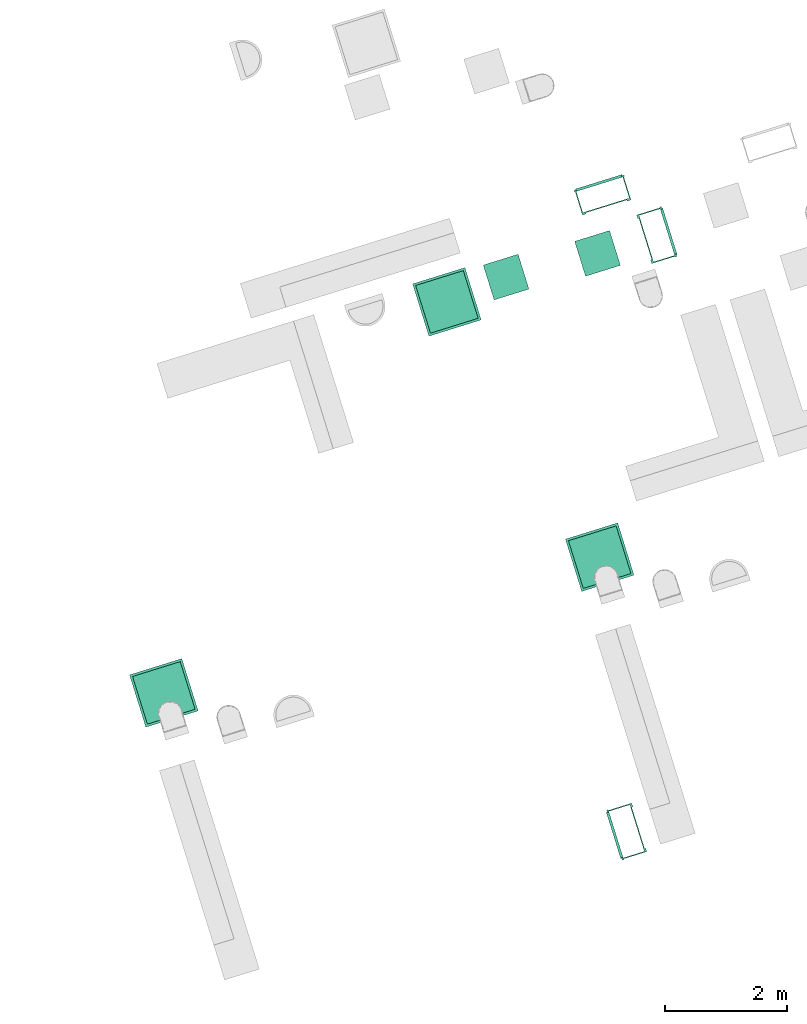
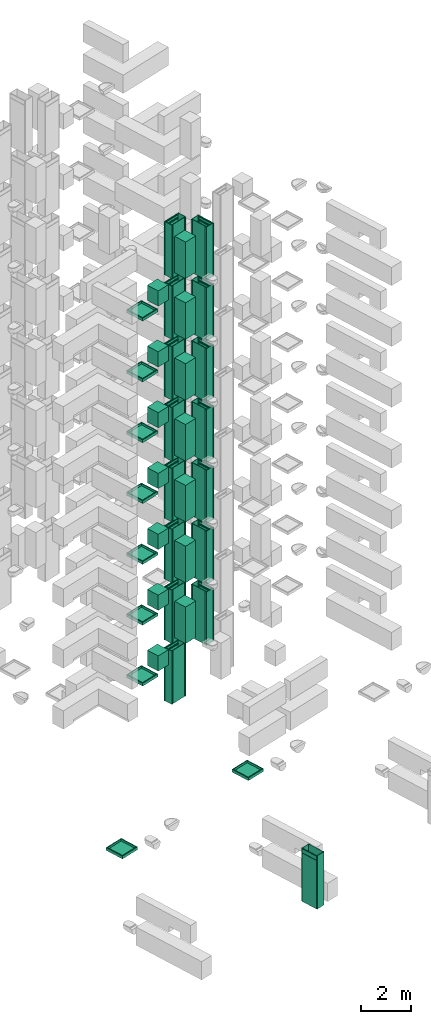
# Not in any storey, part 1 of 20: 16 distribution chamber elements, 9 sanitary terminals, 7 boilers, 7 electric appliances.
"""IFC4 model written with IfcOpenShell, lengths in metres."""

import ifcopenshell
import ifcopenshell.guid

model = None  # the IFC model being written
_history = None  # IfcOwnerHistory: only IFC2X3 demands one
_inside = {}  # id of a spatial element -> (the spatial element, [elements in it])
_under = {}  # id of a project, library or spatial element -> (it, [spatial elements below it])
_declared = {}  # id of a project -> (the project, [libraries it declares])
_typed = {}  # id of a type object -> (the type object, [elements of that type])
_made_of = {}  # id of a material, layer set ... -> (it, [elements and type objects made of it])


def new_model(schema):
    """Start an empty IFC model of exactly this schema.

    Asked for "IFC4X3", IfcOpenShell would pick the latest addendum, in which some entities
    have other attributes; the version numbers below select the first issue.
    IFC2X3 requires an IfcOwnerHistory on every rooted entity: one is made here for all.
    """
    global model, _history
    if schema == "IFC4X3":
        model = ifcopenshell.file(schema_version=(4, 3, 0, 0))
    else:
        model = ifcopenshell.file(schema=schema)
    _inside.clear()
    _under.clear()
    _declared.clear()
    _typed.clear()
    _made_of.clear()
    _history = None
    if model.schema == "IFC2X3":
        org = make("IfcOrganization", Name="unknown")
        user = make(
            "IfcPersonAndOrganization",
            ThePerson=make("IfcPerson", FamilyName="unknown"),
            TheOrganization=org,
        )
        app = make(
            "IfcApplication",
            ApplicationDeveloper=org,
            Version="unknown",
            ApplicationFullName="unknown",
            ApplicationIdentifier="unknown",
        )
        _history = make(
            "IfcOwnerHistory",
            OwningUser=user,
            OwningApplication=app,
            ChangeAction="ADDED",
            CreationDate=0,
        )
    return model


def make(cls, **values):
    """One entity of the class cls with the attributes given. An attribute that is None is left unset."""
    return model.create_entity(
        cls, **{name: value for name, value in values.items() if value is not None}
    )


def entity(cls, *values):
    """Any entity or typed value of the class cls, its attributes in the order of the schema. None: left unset."""
    e = model.create_entity(cls)
    for i, value in enumerate(values):
        if value is not None:
            e[i] = value
    return e


def rooted(cls, **values):
    """An entity with a GlobalId (a new one), such as an element, a storey or a relation."""
    return make(cls, GlobalId=ifcopenshell.guid.new(), OwnerHistory=_history, **values)


def si_unit(unit_type, name, prefix=None):
    """IfcSIUnit, for example si_unit("LENGTHUNIT", "METRE", prefix="MILLI")."""
    return make("IfcSIUnit", UnitType=unit_type, Prefix=prefix, Name=name)


def converted_unit(unit_type, name, factor, base, dimensions=None, offset=None):
    """IfcConversionBasedUnit, such as the inch: factor (a typed value) times the base unit."""
    return make(
        "IfcConversionBasedUnit"
        if offset is None
        else "IfcConversionBasedUnitWithOffset",
        ConversionOffset=offset,
        Dimensions=None
        if dimensions is None
        else entity("IfcDimensionalExponents", *dimensions),
        UnitType=unit_type,
        Name=name,
        ConversionFactor=make(
            "IfcMeasureWithUnit", ValueComponent=factor, UnitComponent=base
        ),
    )


def assignment(units):
    """IfcUnitAssignment: the units of a project."""
    return None if units is None else make("IfcUnitAssignment", Units=units)


def point(xyz):
    """IfcCartesianPoint."""
    return None if xyz is None else make("IfcCartesianPoint", Coordinates=xyz)


def direction(xyz):
    """IfcDirection."""
    return None if xyz is None else make("IfcDirection", DirectionRatios=xyz)


def frame(location, z_axis=None, x_axis=None):
    """IfcAxis2Placement3D, a coordinate frame: its origin and axes. An axis left out is left unset."""
    return make(
        "IfcAxis2Placement3D",
        Location=point(location),
        Axis=direction(z_axis),
        RefDirection=direction(x_axis),
    )


def origin():
    """The frame at (0, 0, 0) with its axes left unset."""
    return frame((0.0, 0.0, 0.0))


def place(relative_to, where):
    """IfcLocalPlacement: puts the frame where relative to a parent placement (None: the world)."""
    return make(
        "IfcLocalPlacement", PlacementRelTo=relative_to, RelativePlacement=where
    )


def context(
    kind, dimensions, precision=None, world=None, true_north=None, identifier=None
):
    """IfcGeometricRepresentationContext, for example the 3D "Model" context."""
    return make(
        "IfcGeometricRepresentationContext",
        ContextIdentifier=identifier,
        ContextType=kind,
        CoordinateSpaceDimension=dimensions,
        Precision=precision,
        WorldCoordinateSystem=world,
        TrueNorth=true_north,
    )


def subcontext(parent, identifier, kind, view, scale=None):
    """IfcGeometricRepresentationSubContext, for example "Body" below "Model"."""
    return make(
        "IfcGeometricRepresentationSubContext",
        ContextIdentifier=identifier,
        ContextType=kind,
        ParentContext=parent,
        TargetScale=scale,
        TargetView=view,
    )


def project(units=None, contexts=None):
    """IfcProject with its units and contexts."""
    return rooted(
        "IfcProject",
        Name="project",
        RepresentationContexts=contexts,
        UnitsInContext=assignment(units),
    )


def point_list(points):
    """IfcCartesianPointList2D or 3D."""
    cls = (
        "IfcCartesianPointList2D" if len(points[0]) == 2 else "IfcCartesianPointList3D"
    )
    return make(cls, CoordList=points)


def indexed_curve(points, segments=None, self_intersect=None):
    """IfcIndexedPolyCurve: lines and arcs through numbered points (the first is 1)."""
    return make(
        "IfcIndexedPolyCurve",
        Points=point_list(points),
        Segments=segments,
        SelfIntersect=self_intersect,
    )


def outline(outer, holes=None, kind="AREA"):
    """IfcArbitraryClosedProfileDef: a profile drawn as a closed curve; with holes, ...WithVoids."""
    if holes is None:
        return make("IfcArbitraryClosedProfileDef", ProfileType=kind, OuterCurve=outer)
    return make(
        "IfcArbitraryProfileDefWithVoids",
        ProfileType=kind,
        OuterCurve=outer,
        InnerCurves=holes,
    )


def extrude(swept, where, along, depth):
    """IfcExtrudedAreaSolid: the profile swept, set in the frame where, extruded along a direction by depth."""
    return make(
        "IfcExtrudedAreaSolid",
        SweptArea=swept,
        Position=where,
        ExtrudedDirection=direction(along),
        Depth=depth,
    )


def polygons(points, faces, closed=None, point_numbers=None):
    """IfcPolygonalFaceSet: a face is its outer loop, then its inner loops; points numbered from 1."""
    made = []
    for loops in faces:
        if len(loops) == 1:
            made.append(make("IfcIndexedPolygonalFace", CoordIndex=loops[0]))
        else:
            made.append(
                make(
                    "IfcIndexedPolygonalFaceWithVoids",
                    CoordIndex=loops[0],
                    InnerCoordIndices=loops[1:],
                )
            )
    return make(
        "IfcPolygonalFaceSet",
        Coordinates=point_list(points),
        Closed=closed,
        Faces=made,
        PnIndex=point_numbers,
    )


def shape(context_of_items, identifier, shape_type, items):
    """IfcShapeRepresentation: the items that make up one representation, for example the "Body"."""
    return make(
        "IfcShapeRepresentation",
        ContextOfItems=context_of_items,
        RepresentationIdentifier=identifier,
        RepresentationType=shape_type,
        Items=items,
    )


def source(mapping_origin, context_of_items, identifier, shape_type, items):
    """IfcRepresentationMap: a shape defined once, which mapped items show again and again."""
    return make(
        "IfcRepresentationMap",
        MappingOrigin=mapping_origin,
        MappedRepresentation=shape(context_of_items, identifier, shape_type, items),
    )


def transform(
    local_origin,
    x_axis=None,
    y_axis=None,
    z_axis=None,
    scale=None,
    scale2=None,
    scale3=None,
    uniform=True,
):
    """IfcCartesianTransformationOperator3D, or its non-uniform kind. x_axis, y_axis, z_axis: its Axis1, 2, 3."""
    if uniform:
        return make(
            "IfcCartesianTransformationOperator3D",
            Axis1=direction(x_axis),
            Axis2=direction(y_axis),
            LocalOrigin=point(local_origin),
            Scale=scale,
            Axis3=direction(z_axis),
        )
    return make(
        "IfcCartesianTransformationOperator3DnonUniform",
        Axis1=direction(x_axis),
        Axis2=direction(y_axis),
        LocalOrigin=point(local_origin),
        Scale=scale,
        Axis3=direction(z_axis),
        Scale2=scale2,
        Scale3=scale3,
    )


def mapped(mapping_source, mapping_target):
    """IfcMappedItem: shows the shape of a source again, moved by a transform."""
    return make(
        "IfcMappedItem", MappingSource=mapping_source, MappingTarget=mapping_target
    )


def material(Name=None, Category=None):
    """IfcMaterial."""
    return make("IfcMaterial", Name=Name, Category=Category)


def made_of(thing, what):
    """Note that an element or type object is made of a material, layer set ...; save() writes the relation."""
    if what is not None:
        _made_of.setdefault(what.id(), (what, []))[1].append(thing)
    return thing


def type_object(cls, material=None, **own):
    """A type object (cls), such as IfcWallType, which elements share."""
    return made_of(rooted(cls, **own), material)


def type_shapes(of_type, sources):
    """Give a type object the sources (RepresentationMaps) that its elements show as mapped items."""
    of_type.RepresentationMaps = sources


def element(
    cls,
    number,
    at=None,
    inside=None,
    cuts=None,
    type_object=None,
    material=None,
    context=None,
    identifier="Body",
    shape_type=None,
    held_by="IfcProductDefinitionShape",
    body=None,
    shapes=None,
    **own,
):
    """One element of the class cls, such as IfcWall. Its Tag is "e" and its number.

    at: its placement. inside: the storey or other place that contains it. cuts: it is an
    opening in that element (IfcRelVoidsElement). A single representation is given by context,
    identifier, shape_type and body (its items); several are given by shapes. held_by: the class
    of the entity that holds the representations. save() writes the other relations.
    """
    e = rooted(cls, Tag="e%d" % number, ObjectPlacement=at, **own)
    if body is not None:
        shapes = [shape(context, identifier, shape_type, body)]
    if shapes is not None:
        e.Representation = make(held_by, Representations=shapes)
    if inside is not None:
        _inside.setdefault(inside.id(), (inside, []))[1].append(e)
    if cuts is not None:
        rooted(
            "IfcRelVoidsElement", RelatingBuildingElement=cuts, RelatedOpeningElement=e
        )
    if type_object is not None:
        _typed.setdefault(type_object.id(), (type_object, []))[1].append(e)
    return made_of(e, material)


def aggregate(whole, parts):
    """IfcRelAggregates: a whole, such as a stair, and the parts it consists of."""
    return rooted("IfcRelAggregates", RelatingObject=whole, RelatedObjects=parts)


def save(model, path):
    """Write the relations noted so far, then the file.

    IfcRelAggregates (storeys below a building ...), IfcRelContainedInSpatialStructure (elements
    in a storey), IfcRelDefinesByType, IfcRelAssociatesMaterial and IfcRelDeclares: one each for
    every whole, place, type object, material and project.
    """
    for whole, parts in _under.values():
        aggregate(whole, parts)
    for where, things in _inside.values():
        rooted(
            "IfcRelContainedInSpatialStructure",
            RelatedElements=things,
            RelatingStructure=where,
        )
    for kind, things in _typed.values():
        rooted("IfcRelDefinesByType", RelatedObjects=things, RelatingType=kind)
    for what, things in _made_of.values():
        rooted("IfcRelAssociatesMaterial", RelatedObjects=things, RelatingMaterial=what)
    for by, libraries in _declared.values():
        rooted("IfcRelDeclares", RelatingContext=by, RelatedDefinitions=libraries)
    model.write(path)


model = new_model("IFC4")

# Units and contexts
model_context = context("Model", 3, precision=1e-05, world=origin(), true_north=direction((6.12323399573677e-17, 1.0)))
body_context = subcontext(model_context, "Body", "Model", "MODEL_VIEW")
ifc_project = project(units=[si_unit("LENGTHUNIT", "METRE"), si_unit("AREAUNIT", "SQUARE_METRE"), si_unit("VOLUMEUNIT", "CUBIC_METRE"), converted_unit("PLANEANGLEUNIT", "DEGREE", entity("IfcPlaneAngleMeasure", 0.0174532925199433), si_unit("PLANEANGLEUNIT", "RADIAN"), dimensions=[0, 0, 0, 0, 0, 0, 0])], contexts=[model_context])

# Distribution chamber elements
ifc_material = material(Name="<Unnamed>")
distribution_chamber_element_type = type_object("IfcDistributionChamberElementType", Name="NLRS_61_GM_UN_Jonka meterkast_gen:Jonka_kast", PredefinedType="METERCHAMBER", material=ifc_material)
shared_shape_1 = source(origin(), body_context, "Body", "SweptSolid", [
    extrude(outline(indexed_curve([(-0.00925000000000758, -0.0230000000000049), (0.0177500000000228, -0.0230000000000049), (0.0177500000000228, 0.0230000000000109), (-0.00925000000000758, 0.0230000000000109), (-0.00925000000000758, 0.00899999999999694), (0.000749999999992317, 0.00899999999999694), (0.000749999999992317, -0.00900000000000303), (-0.00925000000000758, -0.00900000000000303), (-0.00925000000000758, -0.0230000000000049)], self_intersect=False)), frame((-0.408999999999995, -0.409249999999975, 0.0), z_axis=(0.0, 0.0, 1.0), x_axis=(0.0, -1.0, 0.0)), (0.0, 0.0, 1.0), 2.63),
    extrude(outline(indexed_curve([(-0.0092500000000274, -0.0230000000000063), (0.0177500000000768, -0.0230000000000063), (0.0177500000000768, 0.0229999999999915), (-0.00925000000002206, 0.0229999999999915), (-0.00925000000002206, 0.00900000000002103), (0.000749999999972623, 0.00900000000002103), (0.000749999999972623, -0.00900000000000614), (-0.0092500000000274, -0.00900000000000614), (-0.0092500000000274, -0.0230000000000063)], self_intersect=False)), frame((0.409000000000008, -0.409249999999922, 0.0), z_axis=(0.0, 0.0, 1.0), x_axis=(0.0, -1.0, 0.0)), (0.0, 0.0, 1.0), 2.63),
    extrude(outline(indexed_curve([(-0.204999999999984, -0.00899999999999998), (0.204999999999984, -0.00899999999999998), (0.204999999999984, 0.00899999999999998), (-0.204999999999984, 0.00899999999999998), (-0.204999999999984, -0.00899999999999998)], self_intersect=False)), frame((-0.408999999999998, -0.204999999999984, 0.0), z_axis=(0.0, 0.0, 1.0), x_axis=(0.0, -1.0, 0.0)), (0.0, 0.0, 1.0), 2.63),
    extrude(outline(indexed_curve([(-0.204999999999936, -0.00900000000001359), (0.204999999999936, -0.00900000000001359), (0.204999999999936, 0.00900000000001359), (-0.204999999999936, 0.00900000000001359), (-0.204999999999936, -0.00900000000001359)], self_intersect=False)), frame((0.409000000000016, -0.204999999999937, 0.0), z_axis=(0.0, 0.0, 1.0), x_axis=(0.0, -1.0, 0.0)), (0.0, 0.0, 1.0), 2.63),
    extrude(outline(indexed_curve([(-0.399999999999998, -0.00799999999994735), (0.399999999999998, -0.00799999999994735), (0.399999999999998, 0.00799999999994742), (-0.399999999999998, 0.00799999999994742), (-0.399999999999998, -0.00799999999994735)], self_intersect=False)), frame((0.0, -0.434999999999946, 0.00999999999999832), z_axis=(0.0, 0.0, 1.0), x_axis=(-1.0, 0.0, 0.0)), (0.0, 0.0, 1.0), 2.39),
    extrude(outline(indexed_curve([(-0.400000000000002, -0.00899999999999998), (0.400000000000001, -0.00899999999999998), (0.400000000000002, 0.00899999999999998), (-0.400000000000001, 0.00899999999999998), (-0.400000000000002, -0.00899999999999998)], self_intersect=False)), frame((0.0, -0.0280000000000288, 0.0), z_axis=(0.0, 0.0, 1.0), x_axis=(-1.0, 0.0, 0.0)), (0.0, 0.0, 1.0), 2.63),
    extrude(outline(indexed_curve([(-0.023, -0.0095), (0.023, -0.0095), (0.023, 0.0095), (-0.023, 0.0095), (-0.023, -0.0095)], self_intersect=False)), frame((-0.376999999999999, -0.0095, 0.0), z_axis=(0.0, 0.0, 1.0), x_axis=(-1.0, 0.0, 0.0)), (0.0, 0.0, 1.0), 2.63),
    extrude(outline(indexed_curve([(-0.022999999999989, -0.0095), (0.022999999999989, -0.0095), (0.022999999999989, 0.0095), (-0.022999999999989, 0.0095), (-0.022999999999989, -0.0095)], self_intersect=False)), frame((0.377000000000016, -0.00950000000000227, 0.0), z_axis=(0.0, 0.0, 1.0), x_axis=(-1.0, 0.0, 0.0)), (0.0, 0.0, 1.0), 2.63),
    extrude(outline(indexed_curve([(-0.399999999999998, -0.00799999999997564), (0.399999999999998, -0.00799999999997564), (0.399999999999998, 0.00799999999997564), (-0.399999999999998, 0.00799999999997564), (-0.399999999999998, -0.00799999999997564)], self_intersect=False)), frame((0.0, -0.434999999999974, 2.41800000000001), z_axis=(0.0, 0.0, 1.0), x_axis=(-1.0, 0.0, 0.0)), (0.0, 0.0, 1.0), 0.197000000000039),
    extrude(outline(indexed_curve([(-0.0230000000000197, -0.0177500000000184), (0.0230000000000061, -0.0177500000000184), (0.0230000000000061, 0.00925000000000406), (0.00900000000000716, 0.00925000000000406), (0.00900000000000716, -0.00074999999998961), (-0.00899999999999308, -0.00074999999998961), (-0.00899999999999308, 0.00925000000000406), (-0.0230000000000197, 0.00925000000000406), (-0.0230000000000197, -0.0177500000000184)], self_intersect=False)), frame((-0.386, -0.409249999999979, 2.59200000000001), z_axis=(1.0, 0.0, 0.0), x_axis=(0.0, 0.0, -1.0)), (0.0, 0.0, 1.0), 0.772),
    extrude(outline(indexed_curve([(-0.0229999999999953, -0.0177500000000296), (0.0229999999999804, -0.0177500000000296), (0.0229999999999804, 0.00925000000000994), (0.00900000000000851, 0.00925000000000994), (0.00900000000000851, -0.000749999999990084), (-0.00899999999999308, -0.000749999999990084), (-0.00899999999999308, 0.00925000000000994), (-0.0229999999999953, 0.00925000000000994), (-0.0229999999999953, -0.0177500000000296)], self_intersect=False)), frame((-0.386, -0.40924999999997, 2.40900000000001), z_axis=(1.0, 0.0, 0.0), x_axis=(0.0, 0.0, -1.0)), (0.0, 0.0, 1.0), 0.772),
    extrude(outline(indexed_curve([(-0.0230000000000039, -0.0177500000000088), (0.0230000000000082, -0.0177500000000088), (0.0230000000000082, 0.00925000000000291), (0.00899999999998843, 0.00925000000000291), (0.00899999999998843, -0.000749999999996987), (-0.00899999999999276, -0.000749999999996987), (-0.00899999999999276, 0.00925000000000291), (-0.0230000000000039, 0.00925000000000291), (-0.0230000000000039, -0.0177500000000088)], self_intersect=False)), frame((-0.386, -0.409249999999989, 0.0229999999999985), z_axis=(1.0, 0.0, 0.0), x_axis=(0.0, 0.0, -1.0)), (0.0, 0.0, 1.0), 0.772),
])
type_shapes(distribution_chamber_element_type, [shared_shape_1])
placement_1 = place(None, frame((13.1347999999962, 11.9886000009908, 0.0), z_axis=(0.0, 0.0, 1.0), x_axis=(0.954770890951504, 0.297342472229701, 0.0)))
placement_2 = place(placement_1, origin())
placement_3 = place(placement_2, frame((0.0, 0.0, 6.9)))
placement_4 = place(placement_3, origin())
distribution_chamber_element_1_placement = place(placement_4, frame((15.3250000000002, 11.3429999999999, 0.0), z_axis=(0.0, 0.0, 1.0), x_axis=(0.0, 1.0, 0.0)))
element("IfcDistributionChamberElement", 1, at=distribution_chamber_element_1_placement, type_object=distribution_chamber_element_type, material=ifc_material, Name="NLRS_61_GM_UN_Jonka meterkast_gen:Jonka_kast", ObjectType="NLRS_61_GM_UN_Jonka meterkast_gen:Jonka_kast", PredefinedType="METERCHAMBER", context=body_context, shape_type="MappedRepresentation", body=[
    mapped(shared_shape_1, transform((0.0, 0.0, 0.0), scale=1.0)),
])
placement_5 = place(placement_2, frame((0.0, 0.0, 9.9)))
placement_6 = place(placement_5, origin())
distribution_chamber_element_2_placement = place(placement_6, frame((15.3250000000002, 11.3429999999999, 0.0), z_axis=(0.0, 0.0, 1.0), x_axis=(0.0, 1.0, 0.0)))
element("IfcDistributionChamberElement", 2, at=distribution_chamber_element_2_placement, type_object=distribution_chamber_element_type, material=ifc_material, Name="NLRS_61_GM_UN_Jonka meterkast_gen:Jonka_kast", ObjectType="NLRS_61_GM_UN_Jonka meterkast_gen:Jonka_kast", PredefinedType="METERCHAMBER", context=body_context, shape_type="MappedRepresentation", body=[
    mapped(shared_shape_1, transform((0.0, 0.0, 0.0), scale=1.0)),
])
placement_7 = place(placement_2, frame((0.0, 0.0, 12.9)))
placement_8 = place(placement_7, origin())
distribution_chamber_element_3_placement = place(placement_8, frame((15.3250000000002, 11.3429999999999, 0.0), z_axis=(0.0, 0.0, 1.0), x_axis=(0.0, 1.0, 0.0)))
element("IfcDistributionChamberElement", 3, at=distribution_chamber_element_3_placement, type_object=distribution_chamber_element_type, material=ifc_material, Name="NLRS_61_GM_UN_Jonka meterkast_gen:Jonka_kast", ObjectType="NLRS_61_GM_UN_Jonka meterkast_gen:Jonka_kast", PredefinedType="METERCHAMBER", context=body_context, shape_type="MappedRepresentation", body=[
    mapped(shared_shape_1, transform((0.0, 0.0, 0.0), scale=1.0)),
])
placement_9 = place(placement_2, frame((0.0, 0.0, 15.9)))
placement_10 = place(placement_9, origin())
distribution_chamber_element_4_placement = place(placement_10, frame((15.3250000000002, 11.3429999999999, 0.0), z_axis=(0.0, 0.0, 1.0), x_axis=(0.0, 1.0, 0.0)))
element("IfcDistributionChamberElement", 4, at=distribution_chamber_element_4_placement, type_object=distribution_chamber_element_type, material=ifc_material, Name="NLRS_61_GM_UN_Jonka meterkast_gen:Jonka_kast", ObjectType="NLRS_61_GM_UN_Jonka meterkast_gen:Jonka_kast", PredefinedType="METERCHAMBER", context=body_context, shape_type="MappedRepresentation", body=[
    mapped(shared_shape_1, transform((0.0, 0.0, 0.0), scale=1.0)),
])
placement_11 = place(placement_2, frame((0.0, 0.0, 18.9)))
placement_12 = place(placement_11, origin())
distribution_chamber_element_5_placement = place(placement_12, frame((15.3250000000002, 11.3429999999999, 0.0), z_axis=(0.0, 0.0, 1.0), x_axis=(0.0, 1.0, 0.0)))
element("IfcDistributionChamberElement", 5, at=distribution_chamber_element_5_placement, type_object=distribution_chamber_element_type, material=ifc_material, Name="NLRS_61_GM_UN_Jonka meterkast_gen:Jonka_kast", ObjectType="NLRS_61_GM_UN_Jonka meterkast_gen:Jonka_kast", PredefinedType="METERCHAMBER", context=body_context, shape_type="MappedRepresentation", body=[
    mapped(shared_shape_1, transform((0.0, 0.0, 0.0), scale=1.0)),
])
placement_13 = place(placement_2, frame((0.0, 0.0, 21.9)))
placement_14 = place(placement_13, origin())
distribution_chamber_element_6_placement = place(placement_14, frame((15.3250000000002, 11.3429999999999, 0.0), z_axis=(0.0, 0.0, 1.0), x_axis=(0.0, 1.0, 0.0)))
element("IfcDistributionChamberElement", 6, at=distribution_chamber_element_6_placement, type_object=distribution_chamber_element_type, material=ifc_material, Name="NLRS_61_GM_UN_Jonka meterkast_gen:Jonka_kast", ObjectType="NLRS_61_GM_UN_Jonka meterkast_gen:Jonka_kast", PredefinedType="METERCHAMBER", context=body_context, shape_type="MappedRepresentation", body=[
    mapped(shared_shape_1, transform((0.0, 0.0, 0.0), scale=1.0)),
])
placement_15 = place(placement_2, frame((0.0, 0.0, 24.9)))
placement_16 = place(placement_15, origin())
distribution_chamber_element_7_placement = place(placement_16, frame((15.3250000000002, 11.3429999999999, 0.0), z_axis=(0.0, 0.0, 1.0), x_axis=(0.0, 1.0, 0.0)))
element("IfcDistributionChamberElement", 7, at=distribution_chamber_element_7_placement, type_object=distribution_chamber_element_type, material=ifc_material, Name="NLRS_61_GM_UN_Jonka meterkast_gen:Jonka_kast", ObjectType="NLRS_61_GM_UN_Jonka meterkast_gen:Jonka_kast", PredefinedType="METERCHAMBER", context=body_context, shape_type="MappedRepresentation", body=[
    mapped(shared_shape_1, transform((0.0, 0.0, 0.0), scale=1.0)),
])

# Boilers
boiler_type = type_object("IfcBoilerType", Name="NLRS_51_ME_WB_warmtepomp_gen:generiek", PredefinedType="NOTDEFINED", material=ifc_material)
shared_shape_2 = source(origin(), body_context, "Body", "SweptSolid", [
    extrude(outline(indexed_curve([(-0.299999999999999, -0.300000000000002), (0.299999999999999, -0.300000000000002), (0.299999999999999, 0.300000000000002), (-0.299999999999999, 0.300000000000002), (-0.299999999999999, -0.300000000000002)], self_intersect=False)), frame((0.124999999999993, 0.350000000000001, 0.6), z_axis=(0.0, 0.0, 1.0), x_axis=(-1.0, 0.0, 0.0)), (0.0, 0.0, 1.0), 1.8),
])
type_shapes(boiler_type, [shared_shape_2])
placement_17 = place(placement_3, origin())
boiler_1_placement = place(placement_17, frame((14.8750000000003, 11.2249999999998, 0.0), z_axis=(0.0, 0.0, 1.0), x_axis=(0.0, 1.0, 0.0)))
element("IfcBoiler", 8, at=boiler_1_placement, type_object=boiler_type, material=ifc_material, Name="NLRS_51_ME_WB_warmtepomp_gen:generiek", ObjectType="NLRS_51_ME_WB_warmtepomp_gen:generiek", PredefinedType="NOTDEFINED", context=body_context, shape_type="MappedRepresentation", body=[
    mapped(shared_shape_2, transform((0.0, 0.0, 0.0), scale=1.0)),
])
placement_18 = place(placement_5, origin())
boiler_2_placement = place(placement_18, frame((14.8750000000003, 11.2249999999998, 0.0), z_axis=(0.0, 0.0, 1.0), x_axis=(0.0, 1.0, 0.0)))
element("IfcBoiler", 9, at=boiler_2_placement, type_object=boiler_type, material=ifc_material, Name="NLRS_51_ME_WB_warmtepomp_gen:generiek", ObjectType="NLRS_51_ME_WB_warmtepomp_gen:generiek", PredefinedType="NOTDEFINED", context=body_context, shape_type="MappedRepresentation", body=[
    mapped(shared_shape_2, transform((0.0, 0.0, 0.0), scale=1.0)),
])
placement_19 = place(placement_7, origin())
boiler_3_placement = place(placement_19, frame((14.8750000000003, 11.2249999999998, 0.0), z_axis=(0.0, 0.0, 1.0), x_axis=(0.0, 1.0, 0.0)))
element("IfcBoiler", 10, at=boiler_3_placement, type_object=boiler_type, material=ifc_material, Name="NLRS_51_ME_WB_warmtepomp_gen:generiek", ObjectType="NLRS_51_ME_WB_warmtepomp_gen:generiek", PredefinedType="NOTDEFINED", context=body_context, shape_type="MappedRepresentation", body=[
    mapped(shared_shape_2, transform((0.0, 0.0, 0.0), scale=1.0)),
])
placement_20 = place(placement_9, origin())
boiler_4_placement = place(placement_20, frame((14.8750000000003, 11.2249999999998, 0.0), z_axis=(0.0, 0.0, 1.0), x_axis=(0.0, 1.0, 0.0)))
element("IfcBoiler", 11, at=boiler_4_placement, type_object=boiler_type, material=ifc_material, Name="NLRS_51_ME_WB_warmtepomp_gen:generiek", ObjectType="NLRS_51_ME_WB_warmtepomp_gen:generiek", PredefinedType="NOTDEFINED", context=body_context, shape_type="MappedRepresentation", body=[
    mapped(shared_shape_2, transform((0.0, 0.0, 0.0), scale=1.0)),
])
placement_21 = place(placement_11, origin())
boiler_5_placement = place(placement_21, frame((14.8750000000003, 11.2249999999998, 0.0), z_axis=(0.0, 0.0, 1.0), x_axis=(0.0, 1.0, 0.0)))
element("IfcBoiler", 12, at=boiler_5_placement, type_object=boiler_type, material=ifc_material, Name="NLRS_51_ME_WB_warmtepomp_gen:generiek", ObjectType="NLRS_51_ME_WB_warmtepomp_gen:generiek", PredefinedType="NOTDEFINED", context=body_context, shape_type="MappedRepresentation", body=[
    mapped(shared_shape_2, transform((0.0, 0.0, 0.0), scale=1.0)),
])
placement_22 = place(placement_13, origin())
boiler_6_placement = place(placement_22, frame((14.8750000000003, 11.2249999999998, 0.0), z_axis=(0.0, 0.0, 1.0), x_axis=(0.0, 1.0, 0.0)))
element("IfcBoiler", 13, at=boiler_6_placement, type_object=boiler_type, material=ifc_material, Name="NLRS_51_ME_WB_warmtepomp_gen:generiek", ObjectType="NLRS_51_ME_WB_warmtepomp_gen:generiek", PredefinedType="NOTDEFINED", context=body_context, shape_type="MappedRepresentation", body=[
    mapped(shared_shape_2, transform((0.0, 0.0, 0.0), scale=1.0)),
])
placement_23 = place(placement_15, origin())
boiler_7_placement = place(placement_23, frame((14.8750000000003, 11.2249999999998, 0.0), z_axis=(0.0, 0.0, 1.0), x_axis=(0.0, 1.0, 0.0)))
element("IfcBoiler", 14, at=boiler_7_placement, type_object=boiler_type, material=ifc_material, Name="NLRS_51_ME_WB_warmtepomp_gen:generiek", ObjectType="NLRS_51_ME_WB_warmtepomp_gen:generiek", PredefinedType="NOTDEFINED", context=body_context, shape_type="MappedRepresentation", body=[
    mapped(shared_shape_2, transform((0.0, 0.0, 0.0), scale=1.0)),
])

# Electric appliances
electric_appliance_type = type_object("IfcElectricApplianceType", Name="NLRS_85_SE_UN_opstelplaats wasmachine_gen:wasdroger", PredefinedType="TUMBLEDRYER", material=ifc_material)
shared_shape_3 = source(origin(), body_context, "Body", "SweptSolid", [
    extrude(outline(indexed_curve([(-0.299999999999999, -0.3), (0.299999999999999, -0.3), (0.299999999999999, 0.3), (-0.299999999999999, 0.3), (-0.299999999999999, -0.3)], self_intersect=False)), frame((0.0, 0.349999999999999, 0.0), z_axis=(0.0, 0.0, 1.0), x_axis=(0.0, 1.0, 0.0)), (0.0, 0.0, 1.0), 0.75026866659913),
])
type_shapes(electric_appliance_type, [shared_shape_3])
electric_appliance_1_placement = place(placement_17, frame((12.9750000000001, 11.7749999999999, 0.0), z_axis=(0.0, 0.0, 1.0), x_axis=(-1.0, 0.0, 0.0)))
element("IfcElectricAppliance", 15, at=electric_appliance_1_placement, type_object=electric_appliance_type, material=ifc_material, Name="NLRS_85_SE_UN_opstelplaats wasmachine_gen:wasdroger", ObjectType="NLRS_85_SE_UN_opstelplaats wasmachine_gen:wasdroger", PredefinedType="TUMBLEDRYER", context=body_context, shape_type="MappedRepresentation", body=[
    mapped(shared_shape_3, transform((0.0, 0.0, 0.0), scale=1.0)),
])
electric_appliance_2_placement = place(placement_18, frame((12.9750000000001, 11.7749999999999, 0.0), z_axis=(0.0, 0.0, 1.0), x_axis=(-1.0, 0.0, 0.0)))
element("IfcElectricAppliance", 16, at=electric_appliance_2_placement, type_object=electric_appliance_type, material=ifc_material, Name="NLRS_85_SE_UN_opstelplaats wasmachine_gen:wasdroger", ObjectType="NLRS_85_SE_UN_opstelplaats wasmachine_gen:wasdroger", PredefinedType="TUMBLEDRYER", context=body_context, shape_type="MappedRepresentation", body=[
    mapped(shared_shape_3, transform((0.0, 0.0, 0.0), scale=1.0)),
])
electric_appliance_3_placement = place(placement_19, frame((12.9750000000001, 11.7749999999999, 0.0), z_axis=(0.0, 0.0, 1.0), x_axis=(-1.0, 0.0, 0.0)))
element("IfcElectricAppliance", 17, at=electric_appliance_3_placement, type_object=electric_appliance_type, material=ifc_material, Name="NLRS_85_SE_UN_opstelplaats wasmachine_gen:wasdroger", ObjectType="NLRS_85_SE_UN_opstelplaats wasmachine_gen:wasdroger", PredefinedType="TUMBLEDRYER", context=body_context, shape_type="MappedRepresentation", body=[
    mapped(shared_shape_3, transform((0.0, 0.0, 0.0), scale=1.0)),
])
electric_appliance_4_placement = place(placement_20, frame((12.9750000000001, 11.7749999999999, 0.0), z_axis=(0.0, 0.0, 1.0), x_axis=(-1.0, 0.0, 0.0)))
element("IfcElectricAppliance", 18, at=electric_appliance_4_placement, type_object=electric_appliance_type, material=ifc_material, Name="NLRS_85_SE_UN_opstelplaats wasmachine_gen:wasdroger", ObjectType="NLRS_85_SE_UN_opstelplaats wasmachine_gen:wasdroger", PredefinedType="TUMBLEDRYER", context=body_context, shape_type="MappedRepresentation", body=[
    mapped(shared_shape_3, transform((0.0, 0.0, 0.0), scale=1.0)),
])
electric_appliance_5_placement = place(placement_21, frame((12.9750000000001, 11.7749999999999, 0.0), z_axis=(0.0, 0.0, 1.0), x_axis=(-1.0, 0.0, 0.0)))
element("IfcElectricAppliance", 19, at=electric_appliance_5_placement, type_object=electric_appliance_type, material=ifc_material, Name="NLRS_85_SE_UN_opstelplaats wasmachine_gen:wasdroger", ObjectType="NLRS_85_SE_UN_opstelplaats wasmachine_gen:wasdroger", PredefinedType="TUMBLEDRYER", context=body_context, shape_type="MappedRepresentation", body=[
    mapped(shared_shape_3, transform((0.0, 0.0, 0.0), scale=1.0)),
])
electric_appliance_6_placement = place(placement_22, frame((12.9750000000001, 11.7749999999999, 0.0), z_axis=(0.0, 0.0, 1.0), x_axis=(-1.0, 0.0, 0.0)))
element("IfcElectricAppliance", 20, at=electric_appliance_6_placement, type_object=electric_appliance_type, material=ifc_material, Name="NLRS_85_SE_UN_opstelplaats wasmachine_gen:wasdroger", ObjectType="NLRS_85_SE_UN_opstelplaats wasmachine_gen:wasdroger", PredefinedType="TUMBLEDRYER", context=body_context, shape_type="MappedRepresentation", body=[
    mapped(shared_shape_3, transform((0.0, 0.0, 0.0), scale=1.0)),
])
electric_appliance_7_placement = place(placement_23, frame((12.9750000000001, 11.7749999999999, 0.0), z_axis=(0.0, 0.0, 1.0), x_axis=(-1.0, 0.0, 0.0)))
element("IfcElectricAppliance", 21, at=electric_appliance_7_placement, type_object=electric_appliance_type, material=ifc_material, Name="NLRS_85_SE_UN_opstelplaats wasmachine_gen:wasdroger", ObjectType="NLRS_85_SE_UN_opstelplaats wasmachine_gen:wasdroger", PredefinedType="TUMBLEDRYER", context=body_context, shape_type="MappedRepresentation", body=[
    mapped(shared_shape_3, transform((0.0, 0.0, 0.0), scale=1.0)),
])

# Sanitary terminals
sanitary_terminal_type = type_object("IfcSanitaryTerminalType", Name="NLRS_74_PF_UN_douche_gen:douchebak 900x900mm", PredefinedType="NOTDEFINED", material=ifc_material)
shared_shape_4 = source(origin(), body_context, "Body", "Tessellation", [
    polygons([(1.65924045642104, 0.403499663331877, -9.76), (0.759240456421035, 0.403499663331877, -9.76), (0.759240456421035, -0.496500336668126, -9.76), (1.65924045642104, -0.496500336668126, -9.76), (0.799240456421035, 0.36349966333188, -9.76), (1.61924045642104, 0.36349966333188, -9.76), (1.61924045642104, -0.456500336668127, -9.76), (0.799240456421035, -0.456500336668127, -9.76), (1.65924045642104, 0.403499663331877, -9.9), (1.65924045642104, -0.496500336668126, -9.9), (0.759240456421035, -0.496500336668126, -9.9), (0.759240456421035, 0.403499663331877, -9.9), (1.61924045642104, 0.36349966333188, -9.86), (0.799240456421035, 0.36349966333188, -9.86), (0.799240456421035, -0.456500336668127, -9.86), (1.61924045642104, -0.456500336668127, -9.86)], [[[1, 2, 3, 4], [5, 6, 7, 8]], [[9, 10, 11, 12]], [[2, 1, 9, 12]], [[3, 2, 12, 11]], [[4, 3, 11, 10]], [[1, 4, 10, 9]], [[13, 14, 15, 16]], [[14, 13, 6, 5]], [[15, 14, 5, 8]], [[16, 15, 8, 7]], [[13, 16, 7, 6]]], closed=True),
])
type_shapes(sanitary_terminal_type, [shared_shape_4])
placement_24 = place(placement_5, origin())
sanitary_terminal_1_placement = place(placement_24, frame((11.878499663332, 10.1157595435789, 9.9), z_axis=(0.0, 0.0, 1.0), x_axis=(0.0, 1.0, 0.0)))
element("IfcSanitaryTerminal", 22, at=sanitary_terminal_1_placement, type_object=sanitary_terminal_type, material=ifc_material, Name="NLRS_74_PF_UN_douche_gen:douchebak 900x900mm", ObjectType="NLRS_74_PF_UN_douche_gen:douchebak 900x900mm", PredefinedType="NOTDEFINED", context=body_context, shape_type="MappedRepresentation", body=[
    mapped(shared_shape_4, transform((0.0, 0.0, 0.0), scale=1.0)),
])
placement_25 = place(placement_7, origin())
sanitary_terminal_2_placement = place(placement_25, frame((11.878499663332, 10.1157595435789, 9.90000000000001), z_axis=(0.0, 0.0, 1.0), x_axis=(0.0, 1.0, 0.0)))
element("IfcSanitaryTerminal", 23, at=sanitary_terminal_2_placement, type_object=sanitary_terminal_type, material=ifc_material, Name="NLRS_74_PF_UN_douche_gen:douchebak 900x900mm", ObjectType="NLRS_74_PF_UN_douche_gen:douchebak 900x900mm", PredefinedType="NOTDEFINED", context=body_context, shape_type="MappedRepresentation", body=[
    mapped(shared_shape_4, transform((0.0, 0.0, 0.0), scale=1.0)),
])
placement_26 = place(placement_9, origin())
sanitary_terminal_3_placement = place(placement_26, frame((11.878499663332, 10.1157595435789, 9.9), z_axis=(0.0, 0.0, 1.0), x_axis=(0.0, 1.0, 0.0)))
element("IfcSanitaryTerminal", 24, at=sanitary_terminal_3_placement, type_object=sanitary_terminal_type, material=ifc_material, Name="NLRS_74_PF_UN_douche_gen:douchebak 900x900mm", ObjectType="NLRS_74_PF_UN_douche_gen:douchebak 900x900mm", PredefinedType="NOTDEFINED", context=body_context, shape_type="MappedRepresentation", body=[
    mapped(shared_shape_4, transform((0.0, 0.0, 0.0), scale=1.0)),
])
placement_27 = place(placement_11, origin())
sanitary_terminal_4_placement = place(placement_27, frame((11.878499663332, 10.1157595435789, 9.9), z_axis=(0.0, 0.0, 1.0), x_axis=(0.0, 1.0, 0.0)))
element("IfcSanitaryTerminal", 25, at=sanitary_terminal_4_placement, type_object=sanitary_terminal_type, material=ifc_material, Name="NLRS_74_PF_UN_douche_gen:douchebak 900x900mm", ObjectType="NLRS_74_PF_UN_douche_gen:douchebak 900x900mm", PredefinedType="NOTDEFINED", context=body_context, shape_type="MappedRepresentation", body=[
    mapped(shared_shape_4, transform((0.0, 0.0, 0.0), scale=1.0)),
])
placement_28 = place(placement_13, origin())
sanitary_terminal_5_placement = place(placement_28, frame((11.878499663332, 10.1157595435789, 9.9), z_axis=(0.0, 0.0, 1.0), x_axis=(0.0, 1.0, 0.0)))
element("IfcSanitaryTerminal", 26, at=sanitary_terminal_5_placement, type_object=sanitary_terminal_type, material=ifc_material, Name="NLRS_74_PF_UN_douche_gen:douchebak 900x900mm", ObjectType="NLRS_74_PF_UN_douche_gen:douchebak 900x900mm", PredefinedType="NOTDEFINED", context=body_context, shape_type="MappedRepresentation", body=[
    mapped(shared_shape_4, transform((0.0, 0.0, 0.0), scale=1.0)),
])
placement_29 = place(placement_15, origin())
sanitary_terminal_6_placement = place(placement_29, frame((11.878499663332, 10.1157595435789, 9.9), z_axis=(0.0, 0.0, 1.0), x_axis=(0.0, 1.0, 0.0)))
element("IfcSanitaryTerminal", 27, at=sanitary_terminal_6_placement, type_object=sanitary_terminal_type, material=ifc_material, Name="NLRS_74_PF_UN_douche_gen:douchebak 900x900mm", ObjectType="NLRS_74_PF_UN_douche_gen:douchebak 900x900mm", PredefinedType="NOTDEFINED", context=body_context, shape_type="MappedRepresentation", body=[
    mapped(shared_shape_4, transform((0.0, 0.0, 0.0), scale=1.0)),
])
placement_30 = place(placement_3, origin())
sanitary_terminal_7_placement = place(placement_30, frame((11.878499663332, 10.1157595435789, 9.9), z_axis=(0.0, 0.0, 1.0), x_axis=(0.0, 1.0, 0.0)))
element("IfcSanitaryTerminal", 28, at=sanitary_terminal_7_placement, type_object=sanitary_terminal_type, material=ifc_material, Name="NLRS_74_PF_UN_douche_gen:douchebak 900x900mm", ObjectType="NLRS_74_PF_UN_douche_gen:douchebak 900x900mm", PredefinedType="NOTDEFINED", context=body_context, shape_type="MappedRepresentation", body=[
    mapped(shared_shape_4, transform((0.0, 0.0, 0.0), scale=1.0)),
])
shared_shape_5 = source(origin(), body_context, "Body", "Tessellation", [
    polygons([(1.65924045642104, -0.403499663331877, -3.76), (1.65924045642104, 0.496500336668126, -3.76), (0.759240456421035, 0.496500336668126, -3.76), (0.759240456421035, -0.403499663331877, -3.76), (0.799240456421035, -0.36349966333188, -3.76), (0.799240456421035, 0.456500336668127, -3.76), (1.61924045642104, 0.456500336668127, -3.76), (1.61924045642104, -0.36349966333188, -3.76), (1.65924045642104, -0.403499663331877, -3.9), (0.759240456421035, -0.403499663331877, -3.9), (0.759240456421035, 0.496500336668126, -3.9), (1.65924045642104, 0.496500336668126, -3.9), (1.61924045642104, -0.36349966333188, -3.86), (1.61924045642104, 0.456500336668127, -3.86), (0.799240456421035, 0.456500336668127, -3.86), (0.799240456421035, -0.36349966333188, -3.86)], [[[1, 2, 3, 4], [5, 6, 7, 8]], [[9, 10, 11, 12]], [[4, 10, 9, 1]], [[3, 11, 10, 4]], [[2, 12, 11, 3]], [[1, 9, 12, 2]], [[13, 14, 15, 16]], [[16, 5, 8, 13]], [[15, 6, 5, 16]], [[14, 7, 6, 15]], [[13, 8, 7, 14]]], closed=True),
])
placement_31 = place(placement_2, frame((0.0, 0.0, 3.9)))
placement_32 = place(placement_31, origin())
sanitary_terminal_8_placement = place(placement_32, frame((13.0284996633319, 7.78424045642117, 3.9), z_axis=(0.0, 0.0, 1.0), x_axis=(0.0, -1.0, 0.0)))
element("IfcSanitaryTerminal", 29, at=sanitary_terminal_8_placement, type_object=sanitary_terminal_type, material=ifc_material, Name="NLRS_74_PF_UN_douche_gen:douchebak 900x900mm", ObjectType="NLRS_74_PF_UN_douche_gen:douchebak 900x900mm", PredefinedType="NOTDEFINED", context=body_context, shape_type="MappedRepresentation", body=[
    mapped(shared_shape_5, transform((0.0, 0.0, 0.0), scale=1.0)),
])
placement_33 = place(placement_31, origin())
sanitary_terminal_9_placement = place(placement_33, frame((5.5284996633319, 7.78424045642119, 3.9), z_axis=(0.0, 0.0, 1.0), x_axis=(0.0, -1.0, 0.0)))
element("IfcSanitaryTerminal", 30, at=sanitary_terminal_9_placement, type_object=sanitary_terminal_type, material=ifc_material, Name="NLRS_74_PF_UN_douche_gen:douchebak 900x900mm", ObjectType="NLRS_74_PF_UN_douche_gen:douchebak 900x900mm", PredefinedType="NOTDEFINED", context=body_context, shape_type="MappedRepresentation", body=[
    mapped(shared_shape_5, transform((0.0, 0.0, 0.0), scale=1.0)),
])

# Distribution chamber elements
shared_shape_6 = source(origin(), body_context, "Body", "SweptSolid", [
    extrude(outline(indexed_curve([(-0.0230000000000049, -0.00925000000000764), (-0.00900000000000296, -0.00925000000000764), (-0.00900000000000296, 0.000749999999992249), (0.00899999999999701, 0.000749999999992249), (0.00899999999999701, -0.00925000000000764), (0.023000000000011, -0.00925000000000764), (0.023000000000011, 0.0177500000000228), (-0.0230000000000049, 0.0177500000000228), (-0.0230000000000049, -0.00925000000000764)], self_intersect=False)), frame((-0.408999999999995, 0.409249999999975, 0.0)), (0.0, 0.0, 1.0), 2.63),
    extrude(outline(indexed_curve([(-0.0230000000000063, -0.00925000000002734), (-0.00900000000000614, -0.00925000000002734), (-0.00900000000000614, 0.00074999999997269), (0.00900000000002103, 0.00074999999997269), (0.00900000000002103, -0.00925000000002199), (0.0229999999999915, -0.00925000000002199), (0.0229999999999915, 0.0177500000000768), (-0.0230000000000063, 0.0177500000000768), (-0.0230000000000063, -0.00925000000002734)], self_intersect=False)), frame((0.409000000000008, 0.409249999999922, 0.0)), (0.0, 0.0, 1.0), 2.63),
    extrude(outline(indexed_curve([(-0.00899999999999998, -0.204999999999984), (0.00899999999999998, -0.204999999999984), (0.00899999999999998, 0.204999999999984), (-0.00899999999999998, 0.204999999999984), (-0.00899999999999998, -0.204999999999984)], self_intersect=False)), frame((-0.408999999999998, 0.204999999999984, 0.0)), (0.0, 0.0, 1.0), 2.63),
    extrude(outline(indexed_curve([(-0.00900000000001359, -0.204999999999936), (0.00900000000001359, -0.204999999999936), (0.00900000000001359, 0.204999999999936), (-0.00900000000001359, 0.204999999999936), (-0.00900000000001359, -0.204999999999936)], self_intersect=False)), frame((0.409000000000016, 0.204999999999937, 0.0)), (0.0, 0.0, 1.0), 2.63),
    extrude(outline(indexed_curve([(-0.00799999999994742, -0.399999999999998), (0.00799999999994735, -0.399999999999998), (0.00799999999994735, 0.399999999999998), (-0.00799999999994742, 0.399999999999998), (-0.00799999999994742, -0.399999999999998)], self_intersect=False)), frame((0.0, 0.434999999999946, 0.00999999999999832), z_axis=(0.0, 0.0, 1.0), x_axis=(0.0, 1.0, 0.0)), (0.0, 0.0, 1.0), 2.39),
    extrude(outline(indexed_curve([(-0.0090000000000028, -0.400000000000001), (0.00899999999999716, -0.400000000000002), (0.0090000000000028, 0.400000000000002), (-0.00899999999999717, 0.400000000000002), (-0.0090000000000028, -0.400000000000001)], self_intersect=False)), frame((0.0, 0.0280000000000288, 0.0), z_axis=(0.0, 0.0, 1.0), x_axis=(0.0, 1.0, 0.0)), (0.0, 0.0, 1.0), 2.63),
    extrude(outline(indexed_curve([(-0.0095, -0.023), (0.0095, -0.023), (0.0095, 0.023), (-0.0095, 0.023), (-0.0095, -0.023)], self_intersect=False)), frame((-0.376999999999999, 0.0095, 0.0), z_axis=(0.0, 0.0, 1.0), x_axis=(0.0, 1.0, 0.0)), (0.0, 0.0, 1.0), 2.63),
    extrude(outline(indexed_curve([(-0.0095, -0.022999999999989), (0.0095, -0.022999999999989), (0.0095, 0.022999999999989), (-0.0095, 0.022999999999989), (-0.0095, -0.022999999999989)], self_intersect=False)), frame((0.377000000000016, 0.00950000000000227, 0.0), z_axis=(0.0, 0.0, 1.0), x_axis=(0.0, 1.0, 0.0)), (0.0, 0.0, 1.0), 2.63),
    extrude(outline(indexed_curve([(-0.00799999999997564, -0.399999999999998), (0.00799999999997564, -0.399999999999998), (0.00799999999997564, 0.399999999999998), (-0.00799999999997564, 0.399999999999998), (-0.00799999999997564, -0.399999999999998)], self_intersect=False)), frame((0.0, 0.434999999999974, 2.41800000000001), z_axis=(0.0, 0.0, 1.0), x_axis=(0.0, 1.0, 0.0)), (0.0, 0.0, 1.0), 0.197000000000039),
    extrude(outline(indexed_curve([(-0.0177500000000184, -0.0230000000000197), (0.00925000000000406, -0.0230000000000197), (0.00925000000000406, -0.00899999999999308), (-0.00074999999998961, -0.00899999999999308), (-0.00074999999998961, 0.00900000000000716), (0.00925000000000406, 0.00900000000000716), (0.00925000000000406, 0.0230000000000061), (-0.0177500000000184, 0.0230000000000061), (-0.0177500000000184, -0.0230000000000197)], self_intersect=False)), frame((-0.386, 0.409249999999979, 2.59200000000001), z_axis=(1.0, 0.0, 0.0), x_axis=(0.0, -1.0, 0.0)), (0.0, 0.0, 1.0), 0.772),
    extrude(outline(indexed_curve([(-0.0177500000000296, -0.0229999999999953), (0.00925000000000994, -0.0229999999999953), (0.00925000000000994, -0.00899999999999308), (-0.000749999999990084, -0.00899999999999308), (-0.000749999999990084, 0.00900000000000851), (0.00925000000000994, 0.00900000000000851), (0.00925000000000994, 0.0229999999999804), (-0.0177500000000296, 0.0229999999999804), (-0.0177500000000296, -0.0229999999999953)], self_intersect=False)), frame((-0.386, 0.40924999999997, 2.40900000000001), z_axis=(1.0, 0.0, 0.0), x_axis=(0.0, -1.0, 0.0)), (0.0, 0.0, 1.0), 0.772),
    extrude(outline(indexed_curve([(-0.0177500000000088, -0.0230000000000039), (0.00925000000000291, -0.0230000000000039), (0.00925000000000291, -0.00899999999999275), (-0.000749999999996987, -0.00899999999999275), (-0.000749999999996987, 0.00899999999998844), (0.00925000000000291, 0.00899999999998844), (0.00925000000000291, 0.0230000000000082), (-0.0177500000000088, 0.0230000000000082), (-0.0177500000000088, -0.0230000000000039)], self_intersect=False)), frame((-0.386, 0.409249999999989, 0.0229999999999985), z_axis=(1.0, 0.0, 0.0), x_axis=(0.0, -1.0, 0.0)), (0.0, 0.0, 1.0), 0.772),
])
placement_34 = place(placement_2, origin())
placement_35 = place(placement_34, origin())
distribution_chamber_element_8_placement = place(placement_35, frame((12.375, 2.14300000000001, 0.0), z_axis=(0.0, 0.0, 1.0), x_axis=(0.0, 1.0, 0.0)))
element("IfcDistributionChamberElement", 31, at=distribution_chamber_element_8_placement, type_object=distribution_chamber_element_type, material=ifc_material, Name="NLRS_61_GM_UN_Jonka meterkast_gen:Jonka_kast", ObjectType="NLRS_61_GM_UN_Jonka meterkast_gen:Jonka_kast", PredefinedType="METERCHAMBER", context=body_context, shape_type="MappedRepresentation", body=[
    mapped(shared_shape_6, transform((0.0, 0.0, 0.0), scale=1.0)),
])
placement_36 = place(placement_3, origin())
distribution_chamber_element_9_placement = place(placement_36, frame((14.8930000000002, 12.0250000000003, 0.0)))
element("IfcDistributionChamberElement", 32, at=distribution_chamber_element_9_placement, type_object=distribution_chamber_element_type, material=ifc_material, Name="NLRS_61_GM_UN_Jonka meterkast_gen:Jonka_kast", ObjectType="NLRS_61_GM_UN_Jonka meterkast_gen:Jonka_kast", PredefinedType="METERCHAMBER", context=body_context, shape_type="MappedRepresentation", body=[
    mapped(shared_shape_6, transform((0.0, 0.0, 0.0), scale=1.0)),
])
placement_37 = place(placement_5, origin())
distribution_chamber_element_10_placement = place(placement_37, frame((14.8930000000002, 12.0250000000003, 0.0)))
element("IfcDistributionChamberElement", 33, at=distribution_chamber_element_10_placement, type_object=distribution_chamber_element_type, material=ifc_material, Name="NLRS_61_GM_UN_Jonka meterkast_gen:Jonka_kast", ObjectType="NLRS_61_GM_UN_Jonka meterkast_gen:Jonka_kast", PredefinedType="METERCHAMBER", context=body_context, shape_type="MappedRepresentation", body=[
    mapped(shared_shape_6, transform((0.0, 0.0, 0.0), scale=1.0)),
])
placement_38 = place(placement_7, origin())
distribution_chamber_element_11_placement = place(placement_38, frame((14.8930000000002, 12.0250000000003, 0.0)))
element("IfcDistributionChamberElement", 34, at=distribution_chamber_element_11_placement, type_object=distribution_chamber_element_type, material=ifc_material, Name="NLRS_61_GM_UN_Jonka meterkast_gen:Jonka_kast", ObjectType="NLRS_61_GM_UN_Jonka meterkast_gen:Jonka_kast", PredefinedType="METERCHAMBER", context=body_context, shape_type="MappedRepresentation", body=[
    mapped(shared_shape_6, transform((0.0, 0.0, 0.0), scale=1.0)),
])
placement_39 = place(placement_9, origin())
distribution_chamber_element_12_placement = place(placement_39, frame((14.8930000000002, 12.0250000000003, 0.0)))
element("IfcDistributionChamberElement", 35, at=distribution_chamber_element_12_placement, type_object=distribution_chamber_element_type, material=ifc_material, Name="NLRS_61_GM_UN_Jonka meterkast_gen:Jonka_kast", ObjectType="NLRS_61_GM_UN_Jonka meterkast_gen:Jonka_kast", PredefinedType="METERCHAMBER", context=body_context, shape_type="MappedRepresentation", body=[
    mapped(shared_shape_6, transform((0.0, 0.0, 0.0), scale=1.0)),
])
placement_40 = place(placement_11, origin())
distribution_chamber_element_13_placement = place(placement_40, frame((14.8930000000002, 12.0250000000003, 0.0)))
element("IfcDistributionChamberElement", 36, at=distribution_chamber_element_13_placement, type_object=distribution_chamber_element_type, material=ifc_material, Name="NLRS_61_GM_UN_Jonka meterkast_gen:Jonka_kast", ObjectType="NLRS_61_GM_UN_Jonka meterkast_gen:Jonka_kast", PredefinedType="METERCHAMBER", context=body_context, shape_type="MappedRepresentation", body=[
    mapped(shared_shape_6, transform((0.0, 0.0, 0.0), scale=1.0)),
])
placement_41 = place(placement_13, origin())
distribution_chamber_element_14_placement = place(placement_41, frame((14.8930000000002, 12.0250000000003, 0.0)))
element("IfcDistributionChamberElement", 37, at=distribution_chamber_element_14_placement, type_object=distribution_chamber_element_type, material=ifc_material, Name="NLRS_61_GM_UN_Jonka meterkast_gen:Jonka_kast", ObjectType="NLRS_61_GM_UN_Jonka meterkast_gen:Jonka_kast", PredefinedType="METERCHAMBER", context=body_context, shape_type="MappedRepresentation", body=[
    mapped(shared_shape_6, transform((0.0, 0.0, 0.0), scale=1.0)),
])
placement_42 = place(placement_15, origin())
distribution_chamber_element_15_placement = place(placement_42, frame((14.8930000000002, 12.0250000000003, 0.0)))
element("IfcDistributionChamberElement", 38, at=distribution_chamber_element_15_placement, type_object=distribution_chamber_element_type, material=ifc_material, Name="NLRS_61_GM_UN_Jonka meterkast_gen:Jonka_kast", ObjectType="NLRS_61_GM_UN_Jonka meterkast_gen:Jonka_kast", PredefinedType="METERCHAMBER", context=body_context, shape_type="MappedRepresentation", body=[
    mapped(shared_shape_6, transform((0.0, 0.0, 0.0), scale=1.0)),
])
placement_43 = place(placement_31, origin())
distribution_chamber_element_16_placement = place(placement_43, frame((14.8930000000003, 12.0250000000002, 0.0)))
element("IfcDistributionChamberElement", 39, at=distribution_chamber_element_16_placement, type_object=distribution_chamber_element_type, material=ifc_material, Name="NLRS_61_GM_UN_Jonka meterkast_gen:Jonka_kast", ObjectType="NLRS_61_GM_UN_Jonka meterkast_gen:Jonka_kast", PredefinedType="METERCHAMBER", context=body_context, shape_type="MappedRepresentation", body=[
    mapped(shared_shape_6, transform((0.0, 0.0, 0.0), scale=1.0)),
])

save(model, "model.ifc")
